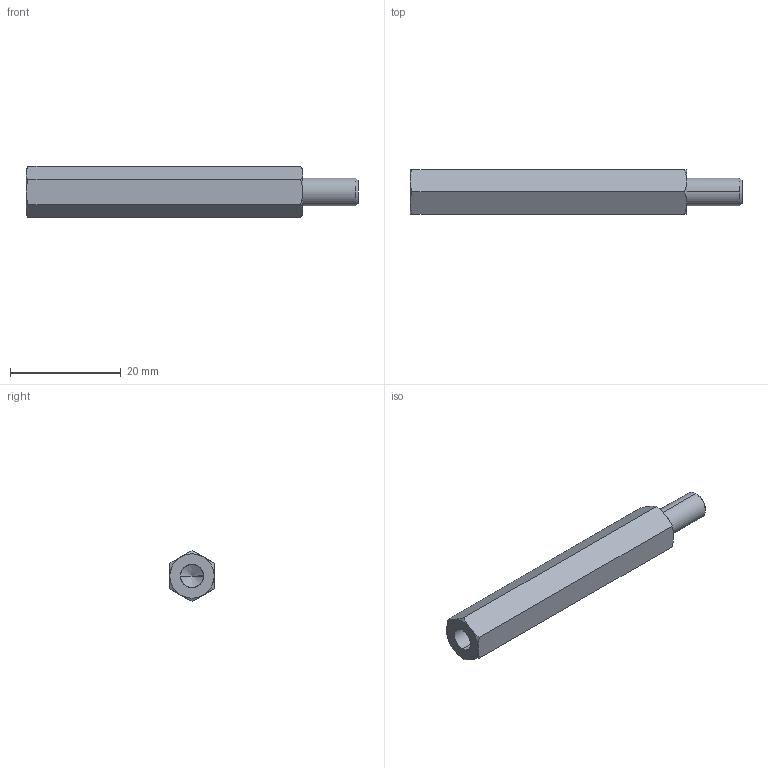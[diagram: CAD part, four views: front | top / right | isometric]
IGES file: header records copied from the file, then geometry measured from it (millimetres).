
Start section: SolidWorks IGES file using analytic representation for surfaces
Global section: file name: C:\Users\render1\Desktop\P0185_IGES\P0185.05-50.igs; native system: SolidWorks 2009; preprocessor: SolidWorks 2009; author: render1; date: 130627.112637; units: millimetre
Bounding box: 60 x 8 x 9.24 mm (x, y, z)
Surface area: 1778.6 mm2 (no closed solid volume)
Topology: 0 solids, 0 shells, 29 faces, 324 edges, 322 vertices
Faces by surface type: revolution 20, bspline 9
